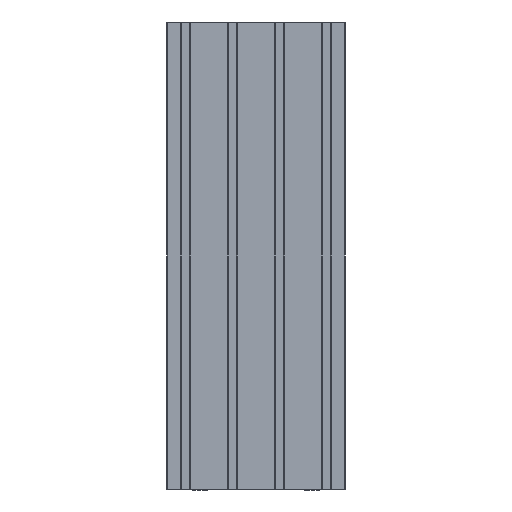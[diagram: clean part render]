
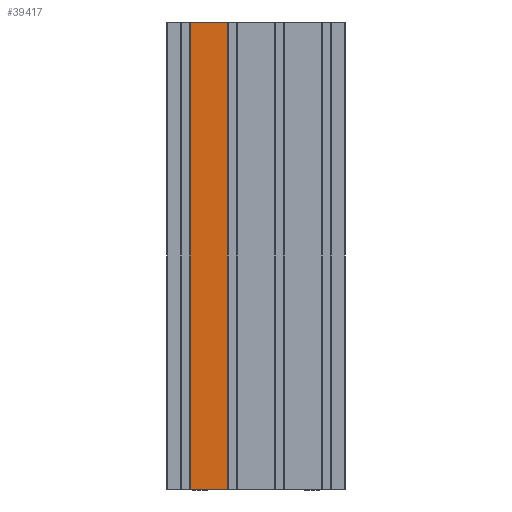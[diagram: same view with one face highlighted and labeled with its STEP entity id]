
A CAD part, front view. The second image highlights one B-rep face of the part: STEP entity #39417.
In plain terms, the highlighted planar face has unit normal (0, -1, 0).
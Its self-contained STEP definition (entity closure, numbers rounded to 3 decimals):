
#27793 = ORIENTED_EDGE ( 'NONE', *, *, #48040, .F. ) ;
#27794 = ORIENTED_EDGE ( 'NONE', *, *, #48039, .T. ) ;
#27795 = ORIENTED_EDGE ( 'NONE', *, *, #48038, .T. ) ;
#27796 = ORIENTED_EDGE ( 'NONE', *, *, #48037, .T. ) ;
#32460 = VERTEX_POINT ( 'NONE', #40466 ) ;
#32462 = VERTEX_POINT ( 'NONE', #40473 ) ;
#32484 = VERTEX_POINT ( 'NONE', #40478 ) ;
#32490 = VERTEX_POINT ( 'NONE', #40488 ) ;
#39417 = ADVANCED_FACE ( 'NONE', ( #50442 ), #52372, .T. ) ;
#40466 = CARTESIAN_POINT ( 'NONE',  ( -30.05, 0., -496. ) ) ;
#40473 = CARTESIAN_POINT ( 'NONE',  ( -69.95, 0., -496. ) ) ;
#40478 = CARTESIAN_POINT ( 'NONE',  ( -30.05, 0., 0. ) ) ;
#40488 = CARTESIAN_POINT ( 'NONE',  ( -69.95, 0., 0. ) ) ;
#42968 = EDGE_LOOP ( 'NONE', ( #27793, #27794, #27795, #27796 ) ) ;
#48037 = EDGE_CURVE ( 'NONE', #32460, #32484, #67392, .T. ) ;
#48038 = EDGE_CURVE ( 'NONE', #32462, #32460, #67390, .T. ) ;
#48039 = EDGE_CURVE ( 'NONE', #32490, #32462, #67396, .T. ) ;
#48040 = EDGE_CURVE ( 'NONE', #32490, #32484, #67398, .T. ) ;
#50442 = FACE_OUTER_BOUND ( 'NONE', #42968, .T. ) ;
#52368 = CARTESIAN_POINT ( 'NONE',  ( -29.05, 0., -496. ) ) ;
#52372 = PLANE ( 'NONE',  #73457 ) ;
#52374 = DIRECTION ( 'NONE',  ( 0., -1., 0. ) ) ;
#52375 = DIRECTION ( 'NONE',  ( 1., 0., 0. ) ) ;
#67390 = LINE ( 'NONE', #68815, #67397 ) ;
#67392 = LINE ( 'NONE', #68844, #67395 ) ;
#67395 = VECTOR ( 'NONE', #68847, 1000. ) ;
#67396 = LINE ( 'NONE', #68853, #67399 ) ;
#67397 = VECTOR ( 'NONE', #68849, 1000. ) ;
#67398 = LINE ( 'NONE', #68857, #67401 ) ;
#67399 = VECTOR ( 'NONE', #68855, 1000. ) ;
#67401 = VECTOR ( 'NONE', #68860, 1000. ) ;
#68815 = CARTESIAN_POINT ( 'NONE',  ( -29.05, 0., -496. ) ) ;
#68844 = CARTESIAN_POINT ( 'NONE',  ( -30.05, 0., -496. ) ) ;
#68847 = DIRECTION ( 'NONE',  ( 0., 0., 1. ) ) ;
#68849 = DIRECTION ( 'NONE',  ( 1., 0., 0. ) ) ;
#68853 = CARTESIAN_POINT ( 'NONE',  ( -69.95, 0., -496. ) ) ;
#68855 = DIRECTION ( 'NONE',  ( 0., 0., -1. ) ) ;
#68857 = CARTESIAN_POINT ( 'NONE',  ( -29.05, 0., 0. ) ) ;
#68860 = DIRECTION ( 'NONE',  ( 1., 0., 0. ) ) ;
#73457 = AXIS2_PLACEMENT_3D ( 'NONE', #52368, #52374, #52375 ) ;
